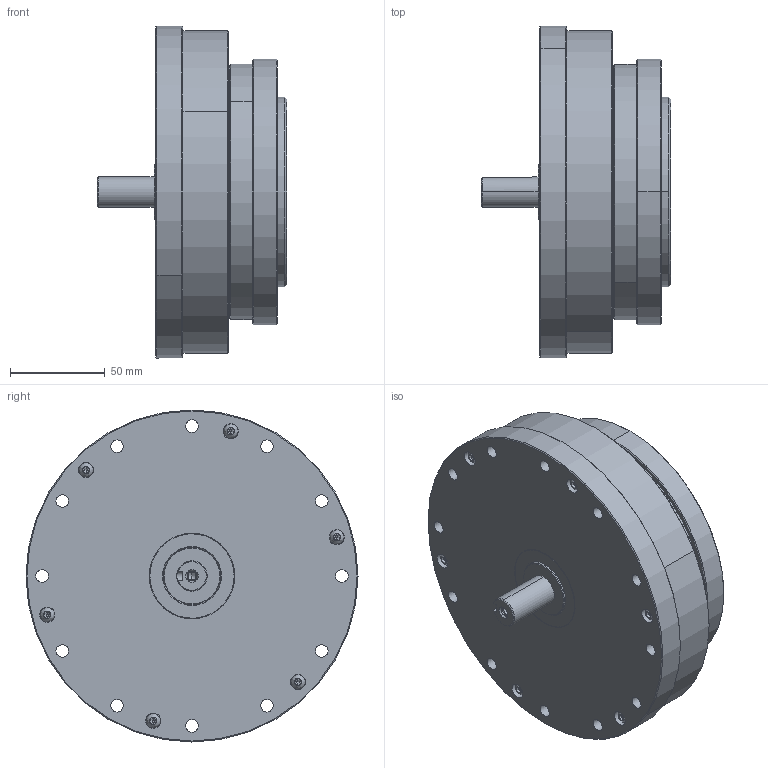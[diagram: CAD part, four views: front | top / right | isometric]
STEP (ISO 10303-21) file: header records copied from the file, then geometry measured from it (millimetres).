
FILE_DESCRIPTION (( 'STEP AP203' ), '1' );
FILE_NAME ('LHSG-40-XXX-C-IV.step', '2025-01-07T07:27:26', ( '' ), ( '' ), 'SwSTEP 2.0', 'SolidWorks 2023', '' );
FILE_SCHEMA (( 'CONFIG_CONTROL_DESIGN' ));
Length unit declared in the file: metre
Products named in the file (1): LHSG-40-XXX-C-IV
Bounding box: 100 x 175 x 175 mm (x, y, z)
Volume: 913703.5 mm3; surface area: 419486.1 mm2
Topology: 64 solids, 64 shells, 1790 faces, 4559 edges, 2799 vertices
Faces by surface type: cylinder 638, plane 543, bspline 354, cone 255
Entity records: 64264 total; most frequent: CARTESIAN_POINT 22454, ORIENTED_EDGE 8750, DIRECTION 8654, EDGE_CURVE 4375, AXIS2_PLACEMENT_3D 3555, VERTEX_POINT 2799, EDGE_LOOP 2202, CIRCLE 2118
